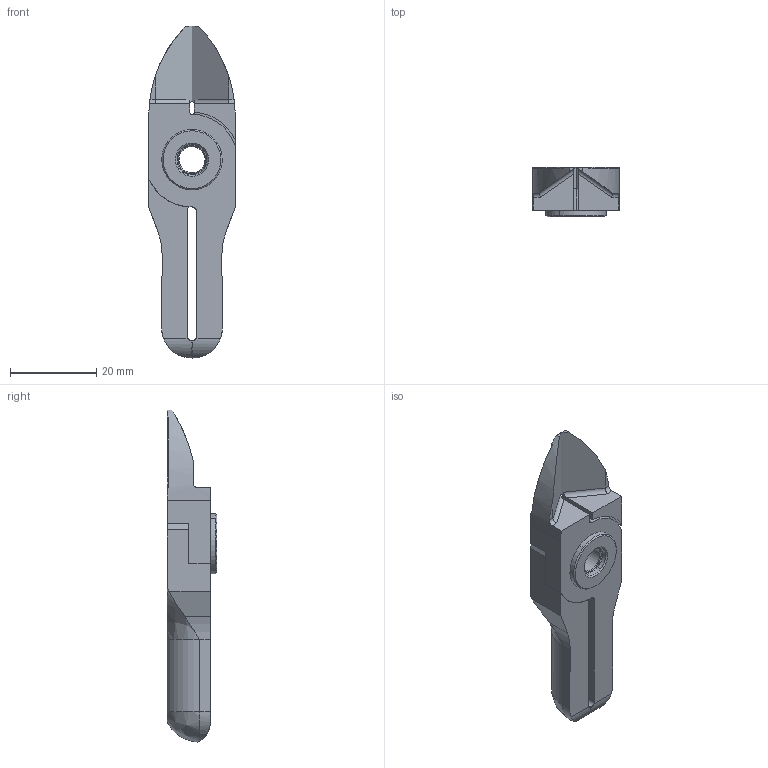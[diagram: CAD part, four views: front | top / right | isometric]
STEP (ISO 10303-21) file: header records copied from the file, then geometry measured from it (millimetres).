
FILE_DESCRIPTION (( 'STEP AP214' ), '1' );
FILE_NAME ('NY25RAJ.STEP', '2019-11-28T03:25:14', ( '微软用户' ), ( '微软中国' ), 'SwSTEP 2.0', 'SolidWorks 2016', '' );
FILE_SCHEMA (( 'AUTOMOTIVE_DESIGN' ));
Length unit declared in the file: millimetre
Products named in the file (3): b; a; NY25RAJ
Assembly tree (2 placements, depth 2):
  NY25RAJ
    a
    b
Bounding box: 20 x 11.5 x 76.98 mm (x, y, z)
Volume: 8675.6 mm3; surface area: 6538.9 mm2
Topology: 3 solids, 3 shells, 125 faces, 315 edges, 197 vertices
Faces by surface type: cylinder 52, plane 40, cone 24, bspline 9
Entity records: 5330 total; most frequent: CARTESIAN_POINT 2254, DIRECTION 631, ORIENTED_EDGE 622, EDGE_CURVE 311, AXIS2_PLACEMENT_3D 240, VERTEX_POINT 197, LINE 151, VECTOR 151
